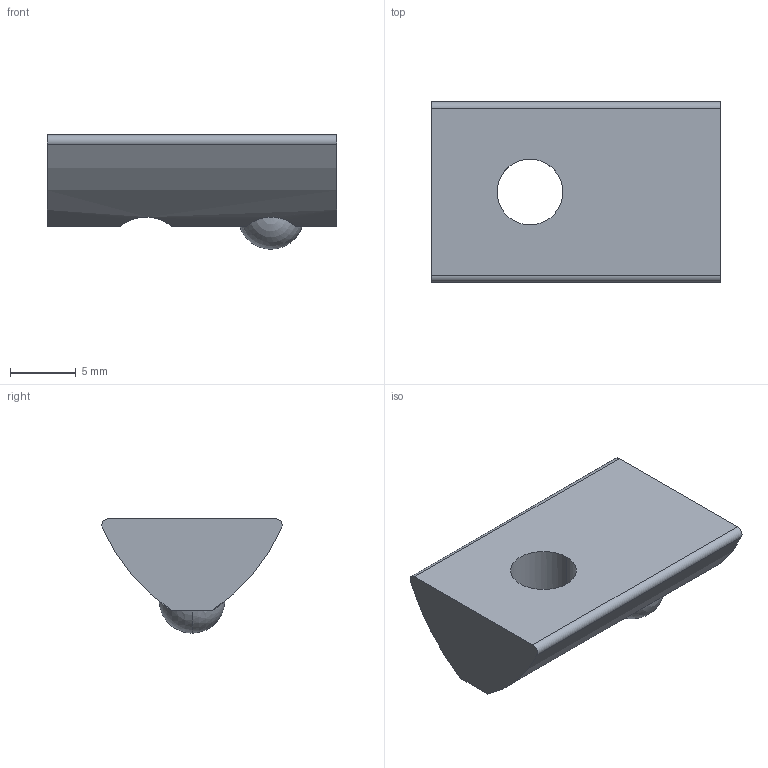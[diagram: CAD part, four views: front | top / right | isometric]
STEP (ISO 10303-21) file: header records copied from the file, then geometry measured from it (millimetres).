
FILE_DESCRIPTION (( 'STEP AP203' ), '1' );
FILE_NAME ('0108NSM6.STEP', '2024-03-05T08:35:56', ( 'Windows-Benutzer' ), ( '' ), 'SwSTEP 2.0', 'SolidWorks 2023', '' );
FILE_SCHEMA (( 'CONFIG_CONTROL_DESIGN' ));
Length unit declared in the file: millimetre
Products named in the file (1): 0108NSM6
Bounding box: 22 x 13.7 x 8.7 mm (x, y, z)
Volume: 1382.9 mm3; surface area: 968.7 mm2
Topology: 1 solids, 1 shells, 14 faces, 40 edges, 27 vertices
Faces by surface type: cylinder 6, plane 6, sphere 2
Entity records: 613 total; most frequent: CARTESIAN_POINT 150, DIRECTION 86, ORIENTED_EDGE 80, EDGE_CURVE 40, AXIS2_PLACEMENT_3D 35, VERTEX_POINT 27, CIRCLE 20, LINE 16
